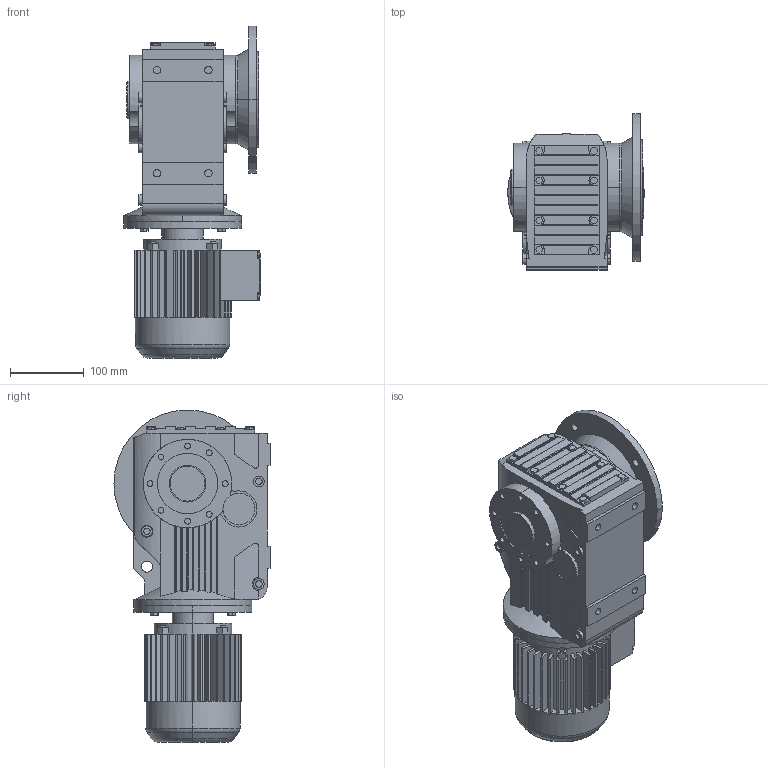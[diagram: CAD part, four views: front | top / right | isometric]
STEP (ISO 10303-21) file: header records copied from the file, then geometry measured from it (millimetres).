
FILE_DESCRIPTION(('Open CASCADE Model'),'2;1');
FILE_NAME('Open CASCADE Shape Model','2018-09-12T14:10:18',('Author'),( 'Open CASCADE'),'Open CASCADE STEP processor 6.3','Open CASCADE 6.3' ,'Unknown');
FILE_SCHEMA(('AUTOMOTIVE_DESIGN_CC2 { 1 2 10303 214 -1 1 5 4 }'));
Length unit declared in the file: millimetre
Products named in the file (5): 41_KAF47DR63-A; KA37‵107_47.step; 萇儂_160-DR63-185-240-132-105.step; す瑩諾陑粣K_47.step; 楊擘K_47.step
Assembly tree (4 placements, depth 2):
  41_KAF47DR63-A
    KA37‵107_47.step
    萇儂_160-DR63-185-240-132-105.step
    す瑩諾陑粣K_47.step
    楊擘K_47.step
Bounding box: 185.5 x 212 x 451 mm (x, y, z)
Volume: 7287415.1 mm3; surface area: 561178.8 mm2
Topology: 4 solids, 4 shells, 868 faces, 2258 edges, 1471 vertices
Faces by surface type: plane 558, cylinder 298, cone 8, torus 4
Entity records: 64776 total; most frequent: CARTESIAN_POINT 22454, DIRECTION 7075, ORIENTED_EDGE 4516, PCURVE 4516, DEFINITIONAL_REPRESENTATION 4516, LINE 3617, VECTOR 3617, EDGE_CURVE 2258
